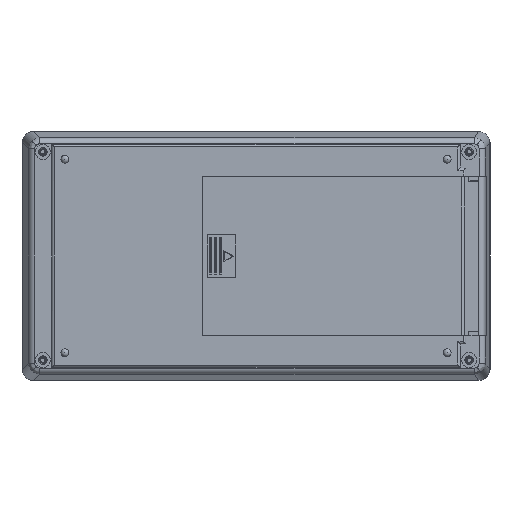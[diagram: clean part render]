
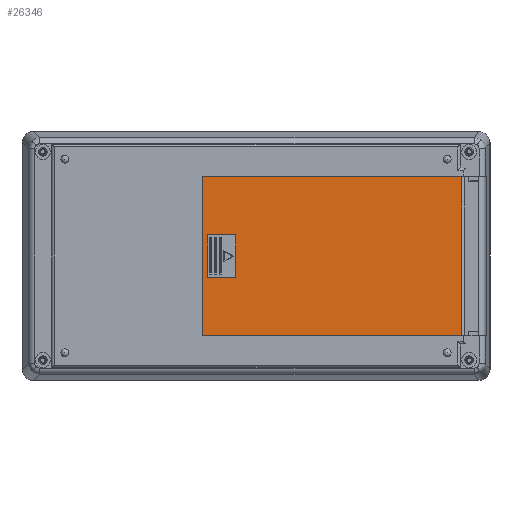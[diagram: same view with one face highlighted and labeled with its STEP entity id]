
A CAD part, front view. The second image highlights one B-rep face of the part: STEP entity #26346.
In plain terms, the highlighted planar face has unit normal (0, -1, 0).
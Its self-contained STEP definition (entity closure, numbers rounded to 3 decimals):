
#7 = EDGE_CURVE ( 'NONE', #2077, #28211, #23454, .T. ) ;
#1108 = EDGE_CURVE ( 'NONE', #15675, #25594, #18471, .T. ) ;
#1249 = EDGE_CURVE ( 'NONE', #15675, #28171, #9004, .T. ) ;
#1421 = ORIENTED_EDGE ( 'NONE', *, *, #7414, .F. ) ;
#1423 = ORIENTED_EDGE ( 'NONE', *, *, #15424, .F. ) ;
#1999 = ORIENTED_EDGE ( 'NONE', *, *, #7, .F. ) ;
#2077 = VERTEX_POINT ( 'NONE', #20508 ) ;
#2543 = CARTESIAN_POINT ( 'NONE',  ( 38.7, 0., -8.75 ) ) ;
#3456 = DIRECTION ( 'NONE',  ( 0., 0., -1. ) ) ;
#3865 = CARTESIAN_POINT ( 'NONE',  ( 130.956, 0., 32.4 ) ) ;
#4293 = EDGE_CURVE ( 'NONE', #27089, #2077, #18517, .T. ) ;
#4695 = CARTESIAN_POINT ( 'NONE',  ( 38.7, 0., -8.75 ) ) ;
#4805 = VERTEX_POINT ( 'NONE', #8459 ) ;
#5306 = FACE_OUTER_BOUND ( 'NONE', #19068, .T. ) ;
#5474 = CARTESIAN_POINT ( 'NONE',  ( 25.2, 0., 32.4 ) ) ;
#6718 = FACE_BOUND ( 'NONE', #16152, .T. ) ;
#7264 = DIRECTION ( 'NONE',  ( 1., 0., 0. ) ) ;
#7272 = VECTOR ( 'NONE', #18284, 1000. ) ;
#7414 = EDGE_CURVE ( 'NONE', #11449, #27089, #16988, .T. ) ;
#7617 = CARTESIAN_POINT ( 'NONE',  ( 25.2, 0., 32.4 ) ) ;
#7699 = DIRECTION ( 'NONE',  ( 0., 1., 0. ) ) ;
#8459 = CARTESIAN_POINT ( 'NONE',  ( 130.956, 0., -32.4 ) ) ;
#8558 = LINE ( 'NONE', #13290, #26402 ) ;
#9004 = LINE ( 'NONE', #5474, #14301 ) ;
#9704 = CARTESIAN_POINT ( 'NONE',  ( 25.2, 0., -32.4 ) ) ;
#11056 = VECTOR ( 'NONE', #22411, 1000. ) ;
#11449 = VERTEX_POINT ( 'NONE', #4695 ) ;
#11627 = ORIENTED_EDGE ( 'NONE', *, *, #14419, .T. ) ;
#13151 = CARTESIAN_POINT ( 'NONE',  ( 38.7, 0., 8.75 ) ) ;
#13290 = CARTESIAN_POINT ( 'NONE',  ( 25.2, 0., -32.4 ) ) ;
#13787 = LINE ( 'NONE', #3865, #26672 ) ;
#14215 = CARTESIAN_POINT ( 'NONE',  ( 25.2, 0., 32.4 ) ) ;
#14301 = VECTOR ( 'NONE', #27889, 1000. ) ;
#14419 = EDGE_CURVE ( 'NONE', #25594, #4805, #8558, .T. ) ;
#15424 = EDGE_CURVE ( 'NONE', #28171, #4805, #13787, .T. ) ;
#15675 = VERTEX_POINT ( 'NONE', #16105 ) ;
#16087 = EDGE_CURVE ( 'NONE', #28211, #11449, #24321, .T. ) ;
#16105 = CARTESIAN_POINT ( 'NONE',  ( 25.2, 0., 32.4 ) ) ;
#16152 = EDGE_LOOP ( 'NONE', ( #24283, #1421, #17158, #1999 ) ) ;
#16988 = LINE ( 'NONE', #20163, #11056 ) ;
#17158 = ORIENTED_EDGE ( 'NONE', *, *, #16087, .F. ) ;
#17466 = VECTOR ( 'NONE', #3456, 1000. ) ;
#18050 = CARTESIAN_POINT ( 'NONE',  ( 38.7, 0., 8.75 ) ) ;
#18254 = CARTESIAN_POINT ( 'NONE',  ( 130.956, 0., 32.4 ) ) ;
#18284 = DIRECTION ( 'NONE',  ( 0., 0., -1. ) ) ;
#18395 = VECTOR ( 'NONE', #7264, 1000. ) ;
#18471 = LINE ( 'NONE', #14215, #7272 ) ;
#18517 = LINE ( 'NONE', #18050, #19224 ) ;
#19068 = EDGE_LOOP ( 'NONE', ( #11627, #1423, #28815, #20869 ) ) ;
#19224 = VECTOR ( 'NONE', #22582, 1000. ) ;
#20163 = CARTESIAN_POINT ( 'NONE',  ( 38.7, 0., 8.75 ) ) ;
#20508 = CARTESIAN_POINT ( 'NONE',  ( 27.2, 0., 8.75 ) ) ;
#20620 = CARTESIAN_POINT ( 'NONE',  ( 27.2, 0., -8.75 ) ) ;
#20869 = ORIENTED_EDGE ( 'NONE', *, *, #1108, .T. ) ;
#21148 = PLANE ( 'NONE',  #26655 ) ;
#22411 = DIRECTION ( 'NONE',  ( 0., 0., 1. ) ) ;
#22582 = DIRECTION ( 'NONE',  ( -1., 0., 0. ) ) ;
#23385 = DIRECTION ( 'NONE',  ( 0., 0., 1. ) ) ;
#23454 = LINE ( 'NONE', #25834, #17466 ) ;
#24111 = DIRECTION ( 'NONE',  ( 0., 0., -1. ) ) ;
#24283 = ORIENTED_EDGE ( 'NONE', *, *, #4293, .F. ) ;
#24321 = LINE ( 'NONE', #2543, #18395 ) ;
#24419 = DIRECTION ( 'NONE',  ( 1., 0., 0. ) ) ;
#25594 = VERTEX_POINT ( 'NONE', #9704 ) ;
#25834 = CARTESIAN_POINT ( 'NONE',  ( 27.2, 0., 8.75 ) ) ;
#26346 = ADVANCED_FACE ( 'NONE', ( #6718, #5306 ), #21148, .F. ) ;
#26402 = VECTOR ( 'NONE', #24419, 1000. ) ;
#26655 = AXIS2_PLACEMENT_3D ( 'NONE', #7617, #7699, #23385 ) ;
#26672 = VECTOR ( 'NONE', #24111, 1000. ) ;
#27089 = VERTEX_POINT ( 'NONE', #13151 ) ;
#27889 = DIRECTION ( 'NONE',  ( 1., 0., 0. ) ) ;
#28171 = VERTEX_POINT ( 'NONE', #18254 ) ;
#28211 = VERTEX_POINT ( 'NONE', #20620 ) ;
#28815 = ORIENTED_EDGE ( 'NONE', *, *, #1249, .F. ) ;
